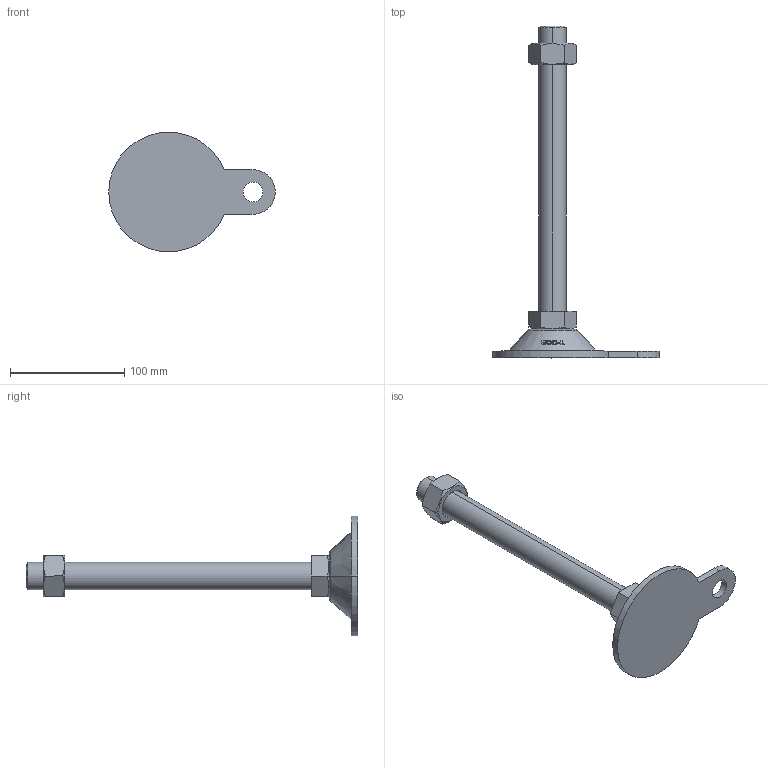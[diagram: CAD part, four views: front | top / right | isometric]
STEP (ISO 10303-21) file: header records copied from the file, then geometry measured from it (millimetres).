
FILE_DESCRIPTION (( 'STEP AP214' ), '1' );
FILE_NAME ('ABL105-M24-250.step', '2021-02-05T04:17:30', ( '' ), ( '' ), 'SwSTEP 2.0', 'SolidWorks 2019', '' );
FILE_SCHEMA (( 'AUTOMOTIVE_DESIGN' ));
Length unit declared in the file: millimetre
Products named in the file (2): ABL105-M24-250
Bounding box: 146 x 291 x 104.98 mm (x, y, z)
Volume: 257205.7 mm3; surface area: 50107 mm2
Topology: 2 solids, 2 shells, 128 faces, 325 edges, 212 vertices
Faces by surface type: plane 48, cylinder 38, cone 22, bspline 18, torus 2
Entity records: 5469 total; most frequent: CARTESIAN_POINT 2583, ORIENTED_EDGE 650, DIRECTION 473, EDGE_CURVE 325, VERTEX_POINT 212, AXIS2_PLACEMENT_3D 176, EDGE_LOOP 143, B_SPLINE_CURVE_WITH_KNOTS 140
